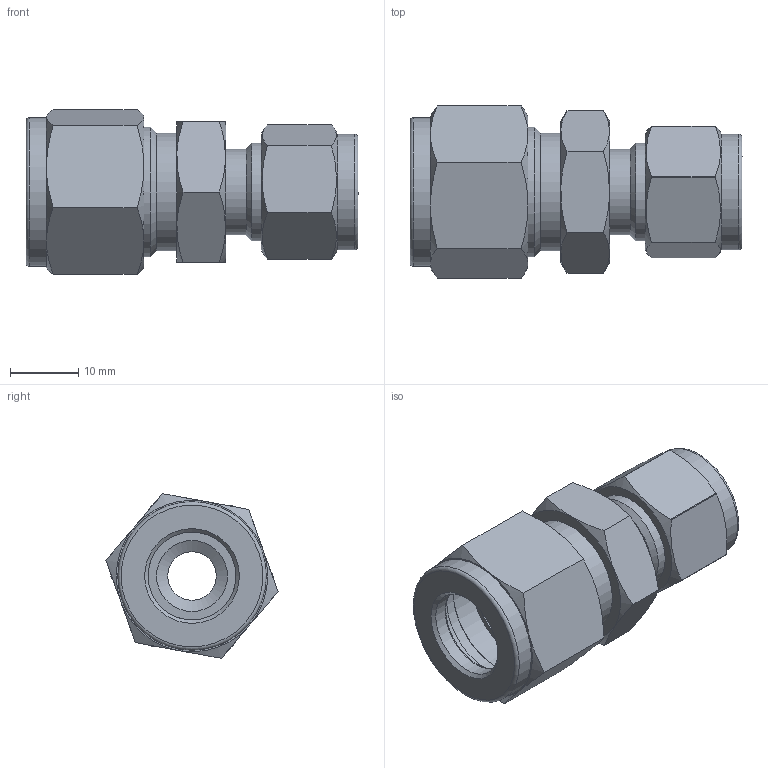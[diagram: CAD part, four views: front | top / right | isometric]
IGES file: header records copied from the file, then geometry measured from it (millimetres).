
Global section: file name: No Iges File Name specified; native system: Autodesk Inventor 2012; preprocessor: AutoDesk Inventor Iges Exporter R2012; author: 硅己绕,,1; organization: 1; date: 20150420.103430; units: millimetre
Bounding box: 48.71 x 25.24 x 24.17 mm (x, y, z)
Volume: 9319.4 mm3; surface area: 7798 mm2
Topology: 3 solids, 3 shells, 95 faces, 208 edges, 130 vertices
Faces by surface type: plane 35, revolution 22, cone 20, cylinder 14, torus 4
Full cylindrical faces by diameter (mm): 12.5 x1, 12.55 x1, 14.28 x1, 17 x1, 17.2 x1, 17.3 x1, 19.05 x1, 21.8 x1
